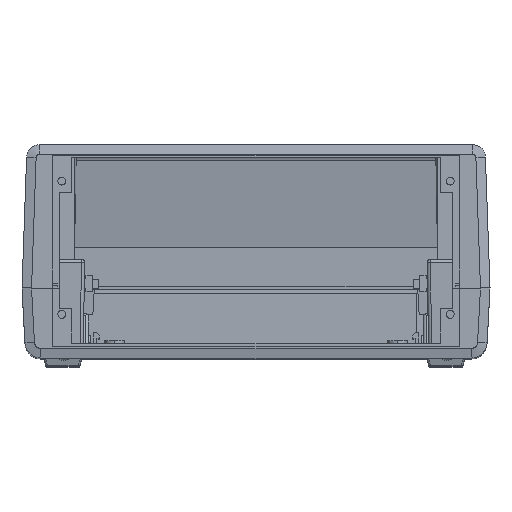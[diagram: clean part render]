
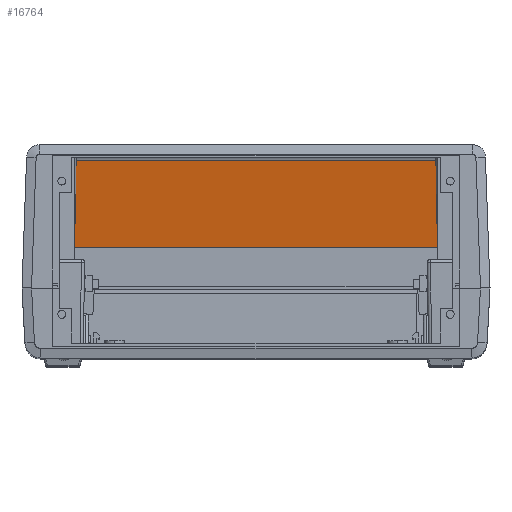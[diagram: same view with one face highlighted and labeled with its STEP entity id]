
A CAD part, top view. The second image highlights one B-rep face of the part: STEP entity #16764.
In plain terms, the highlighted planar face has unit normal (0, -0.174, 0.985).
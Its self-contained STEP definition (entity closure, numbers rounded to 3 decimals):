
#449 = VERTEX_POINT ( 'NONE', #14064 ) ;
#753 = LINE ( 'NONE', #11703, #11665 ) ;
#1394 = CARTESIAN_POINT ( 'NONE',  ( 59.647, 28.614, -79.701 ) ) ;
#2526 = CARTESIAN_POINT ( 'NONE',  ( -58.915, 23.076, -80.677 ) ) ;
#3559 = DIRECTION ( 'NONE',  ( 0., 0.985, 0.174 ) ) ;
#4183 = VERTEX_POINT ( 'NONE', #32488 ) ;
#4665 = PLANE ( 'NONE',  #6751 ) ;
#5975 = VERTEX_POINT ( 'NONE', #29395 ) ;
#6202 = DIRECTION ( 'NONE',  ( 1., 0., 0. ) ) ;
#6751 = AXIS2_PLACEMENT_3D ( 'NONE', #26747, #7371, #3559 ) ;
#7371 = DIRECTION ( 'NONE',  ( 0., 0.174, -0.985 ) ) ;
#7788 = CARTESIAN_POINT ( 'NONE',  ( 58.235, 24.718, -80.388 ) ) ;
#8492 = VECTOR ( 'NONE', #19564, 1000. ) ;
#9554 = FACE_OUTER_BOUND ( 'NONE', #29626, .T. ) ;
#9953 = CARTESIAN_POINT ( 'NONE',  ( 57.659, 27.347, -79.924 ) ) ;
#10144 = LINE ( 'NONE', #1394, #8492 ) ;
#10335 =( BOUNDED_CURVE ( )  B_SPLINE_CURVE ( 3, ( #14979, #33737, #7788, #9953 ),
 .UNSPECIFIED., .F., .F. ) 
 B_SPLINE_CURVE_WITH_KNOTS ( ( 4, 4 ),
 ( 3.268, 3.817 ),
 .UNSPECIFIED. ) 
 CURVE ( )  GEOMETRIC_REPRESENTATION_ITEM ( )  RATIONAL_B_SPLINE_CURVE ( ( 1., 0.975, 0.975, 1. ) ) 
 REPRESENTATION_ITEM ( '' )  );
#10695 = ORIENTED_EDGE ( 'NONE', *, *, #15570, .F. ) ;
#10877 = ORIENTED_EDGE ( 'NONE', *, *, #15712, .F. ) ;
#11554 = VERTEX_POINT ( 'NONE', #18769 ) ;
#11665 = VECTOR ( 'NONE', #6202, 1000. ) ;
#11703 = CARTESIAN_POINT ( 'NONE',  ( 71.9, 27.347, -79.924 ) ) ;
#11873 = CARTESIAN_POINT ( 'NONE',  ( -58.235, 24.718, -80.388 ) ) ;
#12397 = VERTEX_POINT ( 'NONE', #32469 ) ;
#14064 = CARTESIAN_POINT ( 'NONE',  ( 59.647, 0., -84.746 ) ) ;
#14533 = DIRECTION ( 'NONE',  ( -1., 0., 0. ) ) ;
#14979 = CARTESIAN_POINT ( 'NONE',  ( 59.647, 22.546, -80.771 ) ) ;
#15570 = EDGE_CURVE ( 'NONE', #449, #11554, #33845, .T. ) ;
#15712 = EDGE_CURVE ( 'NONE', #12397, #449, #10144, .T. ) ;
#15812 = VERTEX_POINT ( 'NONE', #21833 ) ;
#16204 = ORIENTED_EDGE ( 'NONE', *, *, #30262, .T. ) ;
#16764 = ADVANCED_FACE ( 'NONE', ( #9554 ), #4665, .F. ) ;
#16946 = ORIENTED_EDGE ( 'NONE', *, *, #29392, .T. ) ;
#18405 = CARTESIAN_POINT ( 'NONE',  ( 0., 0., -84.746 ) ) ;
#18550 = EDGE_CURVE ( 'NONE', #5975, #11554, #33152, .T. ) ;
#18666 = ORIENTED_EDGE ( 'NONE', *, *, #27725, .F. ) ;
#18769 = CARTESIAN_POINT ( 'NONE',  ( -59.647, 0., -84.746 ) ) ;
#19564 = DIRECTION ( 'NONE',  ( 0., -0.985, -0.174 ) ) ;
#20166 = CARTESIAN_POINT ( 'NONE',  ( -57.659, 27.347, -79.924 ) ) ;
#20458 = CARTESIAN_POINT ( 'NONE',  ( -59.647, 28.614, -79.701 ) ) ;
#21833 = CARTESIAN_POINT ( 'NONE',  ( -57.659, 27.347, -79.924 ) ) ;
#22651 = DIRECTION ( 'NONE',  ( 0., -0.985, -0.174 ) ) ;
#26747 = CARTESIAN_POINT ( 'NONE',  ( 71.9, 31.479, -79.196 ) ) ;
#27409 = CARTESIAN_POINT ( 'NONE',  ( -59.647, 22.546, -80.771 ) ) ;
#27725 = EDGE_CURVE ( 'NONE', #15812, #4183, #753, .T. ) ;
#29210 =( BOUNDED_CURVE ( )  B_SPLINE_CURVE ( 3, ( #20166, #11873, #2526, #27409 ),
 .UNSPECIFIED., .F., .F. ) 
 B_SPLINE_CURVE_WITH_KNOTS ( ( 4, 4 ),
 ( 2.467, 3.015 ),
 .UNSPECIFIED. ) 
 CURVE ( )  GEOMETRIC_REPRESENTATION_ITEM ( )  RATIONAL_B_SPLINE_CURVE ( ( 1., 0.975, 0.975, 1. ) ) 
 REPRESENTATION_ITEM ( '' )  );
#29392 = EDGE_CURVE ( 'NONE', #15812, #5975, #29210, .T. ) ;
#29395 = CARTESIAN_POINT ( 'NONE',  ( -59.647, 22.546, -80.771 ) ) ;
#29626 = EDGE_LOOP ( 'NONE', ( #30046, #10695, #10877, #16204, #18666, #16946 ) ) ;
#29936 = VECTOR ( 'NONE', #14533, 1000. ) ;
#30046 = ORIENTED_EDGE ( 'NONE', *, *, #18550, .T. ) ;
#30262 = EDGE_CURVE ( 'NONE', #12397, #4183, #10335, .T. ) ;
#32450 = VECTOR ( 'NONE', #22651, 1000. ) ;
#32469 = CARTESIAN_POINT ( 'NONE',  ( 59.647, 22.546, -80.771 ) ) ;
#32488 = CARTESIAN_POINT ( 'NONE',  ( 57.659, 27.347, -79.924 ) ) ;
#33152 = LINE ( 'NONE', #20458, #32450 ) ;
#33737 = CARTESIAN_POINT ( 'NONE',  ( 58.915, 23.076, -80.677 ) ) ;
#33845 = LINE ( 'NONE', #18405, #29936 ) ;
